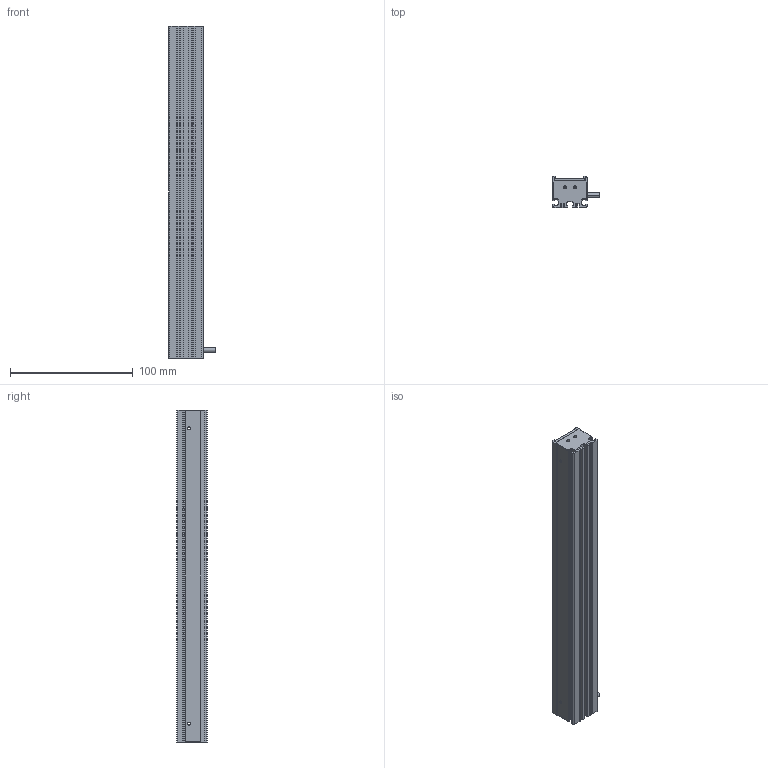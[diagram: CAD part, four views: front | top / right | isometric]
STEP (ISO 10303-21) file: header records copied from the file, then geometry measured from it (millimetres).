
FILE_DESCRIPTION (( 'STEP AP203' ), '1' );
FILE_NAME ('GTR27028-W.STEP', '2022-08-26T03:48:52', ( 'Windows User' ), ( 'P R C' ), 'SwSTEP 2.0', 'SolidWorks 2016', '' );
FILE_SCHEMA (( 'CONFIG_CONTROL_DESIGN' ));
Length unit declared in the file: millimetre
Products named in the file (1): GTR27028-W
Bounding box: 38 x 25 x 270 mm (x, y, z)
Volume: 85760 mm3; surface area: 73794.3 mm2
Topology: 2 solids, 2 shells, 930 faces, 2280 edges, 1512 vertices
Faces by surface type: plane 900, cylinder 22, cone 8
Entity records: 26847 total; most frequent: CARTESIAN_POINT 4715, ORIENTED_EDGE 4544, DIRECTION 4178, EDGE_CURVE 2272, LINE 2228, VECTOR 2228, VERTEX_POINT 1512, EDGE_LOOP 1104
